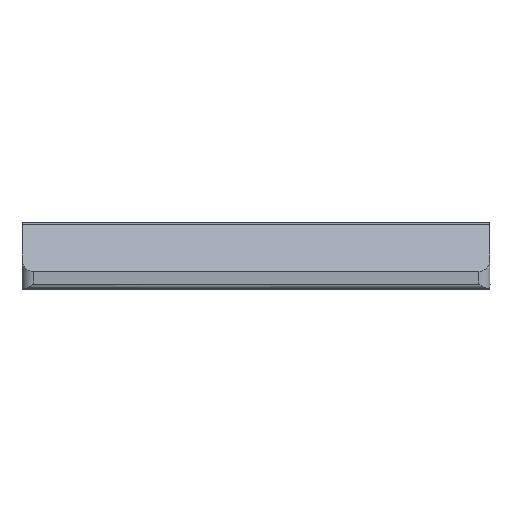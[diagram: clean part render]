
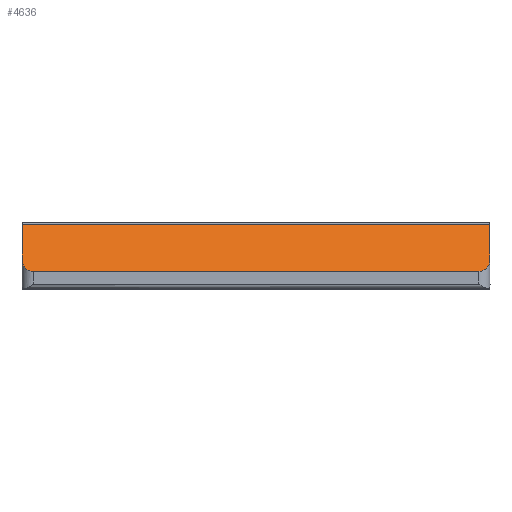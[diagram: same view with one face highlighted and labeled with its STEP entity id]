
A CAD part, top view. The second image highlights one B-rep face of the part: STEP entity #4636.
In plain terms, the highlighted planar face has unit normal (0, 0.707, 0.707).
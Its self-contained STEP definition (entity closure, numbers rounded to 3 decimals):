
#455 = VECTOR ( 'NONE', #3759, 1000. ) ;
#862 = LINE ( 'NONE', #5664, #455 ) ;
#959 = ORIENTED_EDGE ( 'NONE', *, *, #6286, .T. ) ;
#1023 = LINE ( 'NONE', #6982, #7307 ) ;
#1346 = FACE_OUTER_BOUND ( 'NONE', #1677, .T. ) ;
#1530 = CARTESIAN_POINT ( 'NONE',  ( 39.25, 3., 41.25 ) ) ;
#1673 = LINE ( 'NONE', #6367, #6756 ) ;
#1677 = EDGE_LOOP ( 'NONE', ( #959, #5862, #5735, #8021, #4333, #7229 ) ) ;
#1768 = VERTEX_POINT ( 'NONE', #3457 ) ;
#1872 = DIRECTION ( 'NONE',  ( 0., 0.707, -0.707 ) ) ;
#2097 = AXIS2_PLACEMENT_3D ( 'NONE', #6465, #5803, #1872 ) ;
#2231 =( BOUNDED_CURVE ( )  B_SPLINE_CURVE ( 3, ( #7735, #3192, #5715, #5109 ),
 .UNSPECIFIED., .F., .T. ) 
 B_SPLINE_CURVE_WITH_KNOTS ( ( 4, 4 ),
 ( 0., 1.571 ),
 .UNSPECIFIED. ) 
 CURVE ( )  GEOMETRIC_REPRESENTATION_ITEM ( )  RATIONAL_B_SPLINE_CURVE ( ( 1., 0.805, 0.805, 1. ) ) 
 REPRESENTATION_ITEM ( '' )  );
#2472 = CARTESIAN_POINT ( 'NONE',  ( -41.25, 5., 39.25 ) ) ;
#2495 = LINE ( 'NONE', #4411, #5557 ) ;
#2816 = VERTEX_POINT ( 'NONE', #3433 ) ;
#3072 = EDGE_CURVE ( 'NONE', #1768, #2816, #2495, .T. ) ;
#3085 = EDGE_CURVE ( 'NONE', #1768, #6351, #1673, .T. ) ;
#3114 = DIRECTION ( 'NONE',  ( 0., -0.707, 0.707 ) ) ;
#3151 = CARTESIAN_POINT ( 'NONE',  ( -41.25, 3.828, 40.422 ) ) ;
#3192 = CARTESIAN_POINT ( 'NONE',  ( 40.422, 3., 41.25 ) ) ;
#3239 = VERTEX_POINT ( 'NONE', #5144 ) ;
#3281 = CARTESIAN_POINT ( 'NONE',  ( -40.422, 3., 41.25 ) ) ;
#3306 = EDGE_CURVE ( 'NONE', #5018, #3239, #5520, .T. ) ;
#3433 = CARTESIAN_POINT ( 'NONE',  ( -41.25, 11.293, 32.957 ) ) ;
#3457 = CARTESIAN_POINT ( 'NONE',  ( 41.25, 11.293, 32.957 ) ) ;
#3604 = EDGE_CURVE ( 'NONE', #6535, #3239, #862, .T. ) ;
#3759 = DIRECTION ( 'NONE',  ( -1., 0., 0. ) ) ;
#3794 = DIRECTION ( 'NONE',  ( 0., -0.707, 0.707 ) ) ;
#4333 = ORIENTED_EDGE ( 'NONE', *, *, #3085, .F. ) ;
#4411 = CARTESIAN_POINT ( 'NONE',  ( 41.25, 11.293, 32.957 ) ) ;
#4636 = ADVANCED_FACE ( 'NONE', ( #1346 ), #7070, .F. ) ;
#5018 = VERTEX_POINT ( 'NONE', #8254 ) ;
#5109 = CARTESIAN_POINT ( 'NONE',  ( 41.25, 5., 39.25 ) ) ;
#5144 = CARTESIAN_POINT ( 'NONE',  ( -39.25, 3., 41.25 ) ) ;
#5221 = CARTESIAN_POINT ( 'NONE',  ( -39.25, 3., 41.25 ) ) ;
#5520 =( BOUNDED_CURVE ( )  B_SPLINE_CURVE ( 3, ( #2472, #3151, #3281, #5221 ),
 .UNSPECIFIED., .F., .T. ) 
 B_SPLINE_CURVE_WITH_KNOTS ( ( 4, 4 ),
 ( 1.571, 3.142 ),
 .UNSPECIFIED. ) 
 CURVE ( )  GEOMETRIC_REPRESENTATION_ITEM ( )  RATIONAL_B_SPLINE_CURVE ( ( 1., 0.805, 0.805, 1. ) ) 
 REPRESENTATION_ITEM ( '' )  );
#5557 = VECTOR ( 'NONE', #7608, 1000. ) ;
#5664 = CARTESIAN_POINT ( 'NONE',  ( 41.25, 3., 41.25 ) ) ;
#5715 = CARTESIAN_POINT ( 'NONE',  ( 41.25, 3.828, 40.422 ) ) ;
#5735 = ORIENTED_EDGE ( 'NONE', *, *, #3604, .F. ) ;
#5803 = DIRECTION ( 'NONE',  ( 0., -0.707, -0.707 ) ) ;
#5862 = ORIENTED_EDGE ( 'NONE', *, *, #3306, .T. ) ;
#6230 = EDGE_CURVE ( 'NONE', #6535, #6351, #2231, .T. ) ;
#6286 = EDGE_CURVE ( 'NONE', #2816, #5018, #1023, .T. ) ;
#6351 = VERTEX_POINT ( 'NONE', #6552 ) ;
#6367 = CARTESIAN_POINT ( 'NONE',  ( 41.25, 3., 41.25 ) ) ;
#6465 = CARTESIAN_POINT ( 'NONE',  ( 41.25, 3., 41.25 ) ) ;
#6535 = VERTEX_POINT ( 'NONE', #1530 ) ;
#6552 = CARTESIAN_POINT ( 'NONE',  ( 41.25, 5., 39.25 ) ) ;
#6756 = VECTOR ( 'NONE', #3794, 1000. ) ;
#6982 = CARTESIAN_POINT ( 'NONE',  ( -41.25, 3., 41.25 ) ) ;
#7070 = PLANE ( 'NONE',  #2097 ) ;
#7229 = ORIENTED_EDGE ( 'NONE', *, *, #3072, .T. ) ;
#7307 = VECTOR ( 'NONE', #3114, 1000. ) ;
#7608 = DIRECTION ( 'NONE',  ( -1., 0., 0. ) ) ;
#7735 = CARTESIAN_POINT ( 'NONE',  ( 39.25, 3., 41.25 ) ) ;
#8021 = ORIENTED_EDGE ( 'NONE', *, *, #6230, .T. ) ;
#8254 = CARTESIAN_POINT ( 'NONE',  ( -41.25, 5., 39.25 ) ) ;
